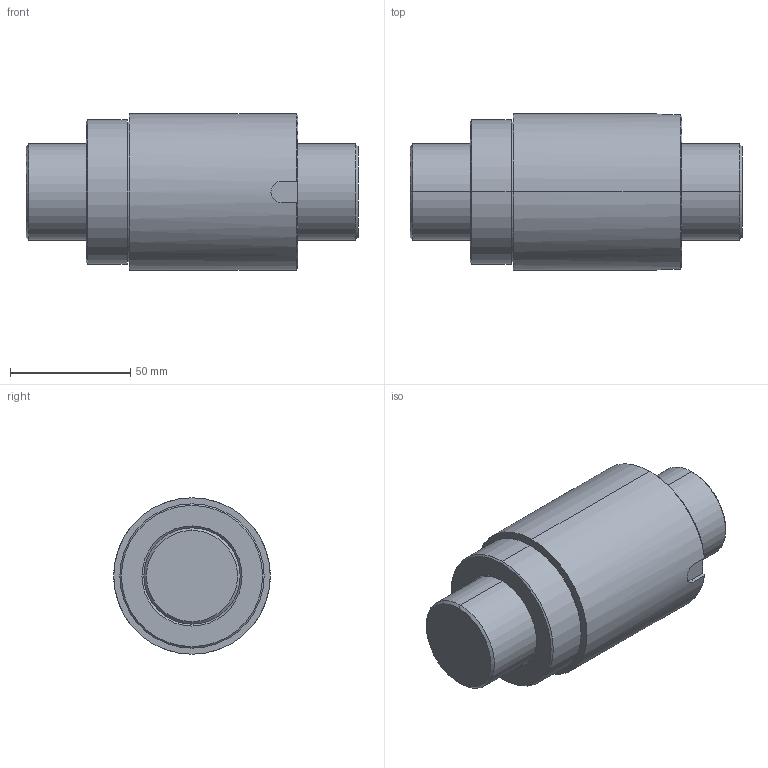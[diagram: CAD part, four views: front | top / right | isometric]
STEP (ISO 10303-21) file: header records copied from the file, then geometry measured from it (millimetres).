
FILE_DESCRIPTION(('no description'),'unknown implementation level');
FILE_NAME('R40_20T2_SE_138_138_0_023_10.stp',' ',('HIWIN GmbH'),('CADClick - KiM GmbH - www.kimweb.de'),'unknown preprocess','ACIS','unknown authorization');
FILE_SCHEMA(('automotive_design'));
Length unit declared in the file: millimetre
Products named in the file (2): R40-20T2-SE 138 138 0.023; R40-20T2-SE 138 138 0.023_1
Bounding box: 138 x 65 x 65 mm (x, y, z)
Volume: 345176.7 mm3; surface area: 52732.8 mm2
Topology: 2 solids, 2 shells, 40 faces, 90 edges, 56 vertices
Faces by surface type: cone 14, cylinder 14, plane 12
Entity records: 2275 total; most frequent: CARTESIAN_POINT 264, DIRECTION 206, STYLED_ITEM 188, PRESENTATION_STYLE_ASSIGNMENT 188, COLOUR_RGB 188, ORIENTED_EDGE 180, EDGE_CURVE 90, CURVE_STYLE 90
